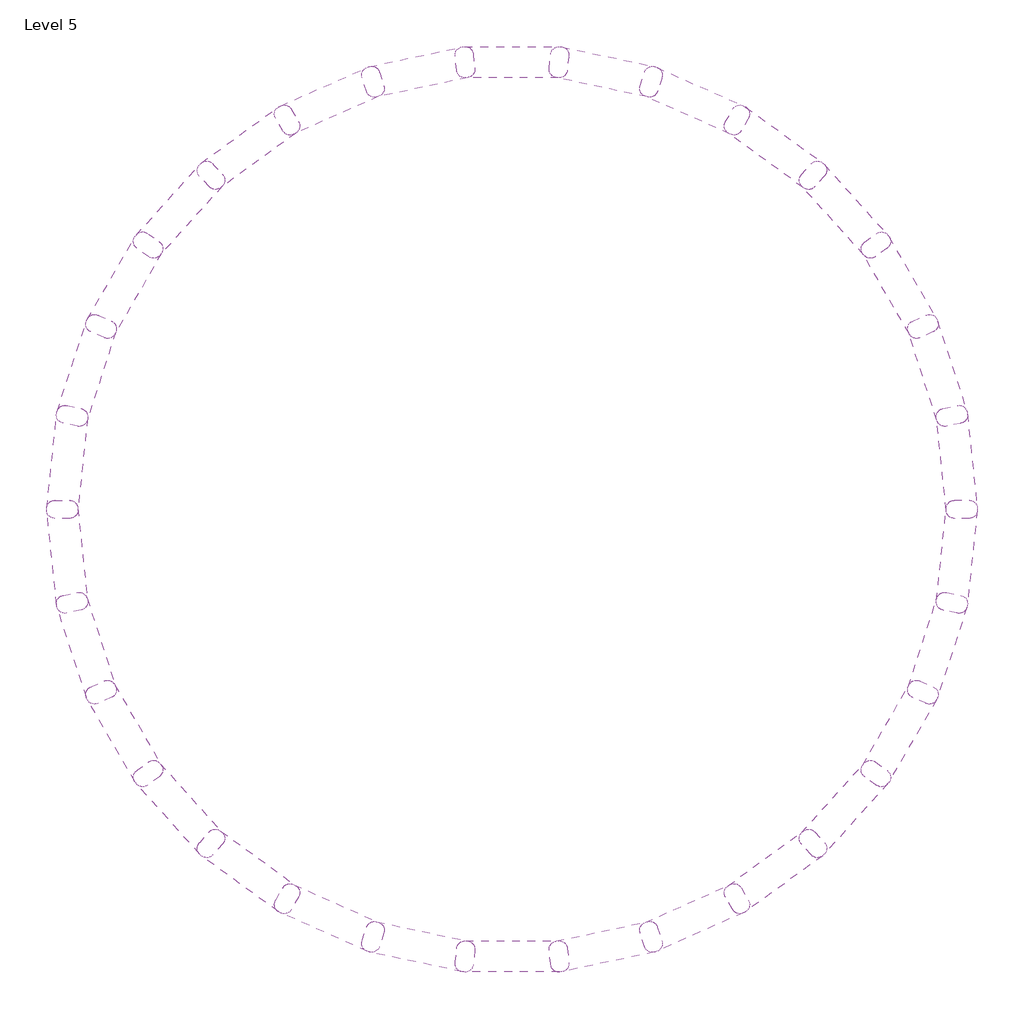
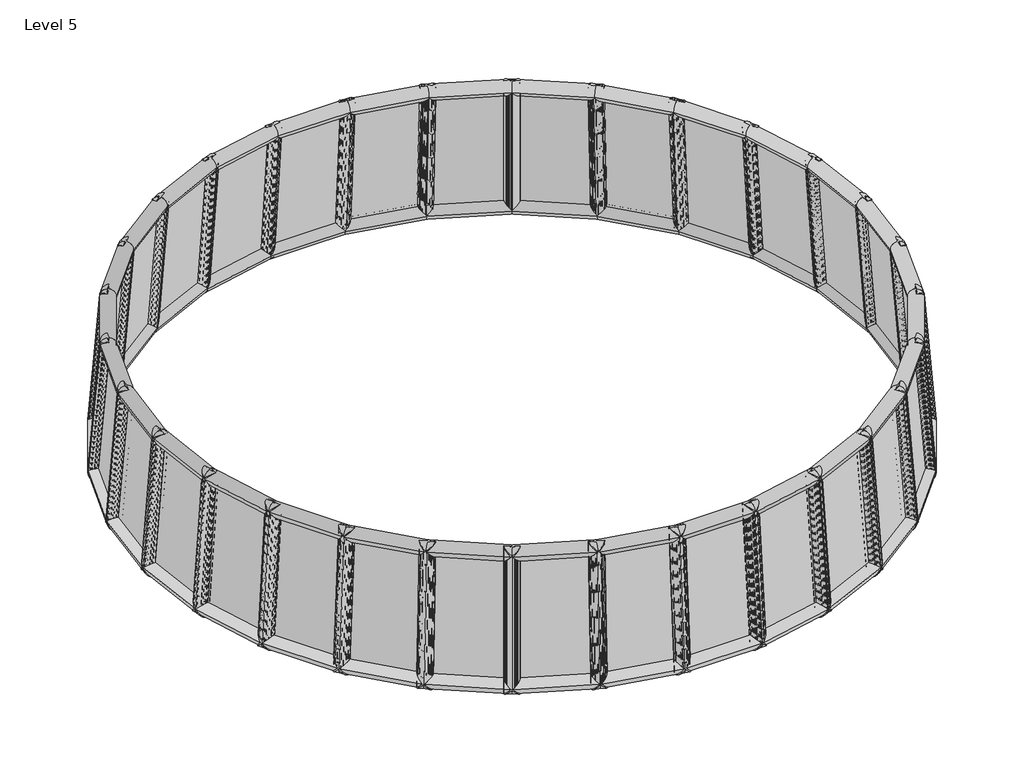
# One storey: 30 plates.
"""IFC4 building model written with IfcOpenShell, lengths in millimetres."""

import ifcopenshell
import ifcopenshell.guid

model = None  # the IFC model being written
_history = None  # IfcOwnerHistory: only IFC2X3 demands one
_inside = {}  # id of a spatial element -> (the spatial element, [elements in it])
_under = {}  # id of a project, library or spatial element -> (it, [spatial elements below it])
_declared = {}  # id of a project -> (the project, [libraries it declares])
_typed = {}  # id of a type object -> (the type object, [elements of that type])
_made_of = {}  # id of a material, layer set ... -> (it, [elements and type objects made of it])


def new_model(schema):
    """Start an empty IFC model of exactly this schema.

    Asked for "IFC4X3", IfcOpenShell would pick the latest addendum, in which some entities
    have other attributes; the version numbers below select the first issue.
    IFC2X3 requires an IfcOwnerHistory on every rooted entity: one is made here for all.
    """
    global model, _history
    if schema == "IFC4X3":
        model = ifcopenshell.file(schema_version=(4, 3, 0, 0))
    else:
        model = ifcopenshell.file(schema=schema)
    _inside.clear()
    _under.clear()
    _declared.clear()
    _typed.clear()
    _made_of.clear()
    _history = None
    if model.schema == "IFC2X3":
        org = make("IfcOrganization", Name="unknown")
        user = make(
            "IfcPersonAndOrganization",
            ThePerson=make("IfcPerson", FamilyName="unknown"),
            TheOrganization=org,
        )
        app = make(
            "IfcApplication",
            ApplicationDeveloper=org,
            Version="unknown",
            ApplicationFullName="unknown",
            ApplicationIdentifier="unknown",
        )
        _history = make(
            "IfcOwnerHistory",
            OwningUser=user,
            OwningApplication=app,
            ChangeAction="ADDED",
            CreationDate=0,
        )
    return model


def make(cls, **values):
    """One entity of the class cls with the attributes given. An attribute that is None is left unset."""
    return model.create_entity(
        cls, **{name: value for name, value in values.items() if value is not None}
    )


def rooted(cls, **values):
    """An entity with a GlobalId (a new one), such as an element, a storey or a relation."""
    return make(cls, GlobalId=ifcopenshell.guid.new(), OwnerHistory=_history, **values)


def si_unit(unit_type, name, prefix=None):
    """IfcSIUnit, for example si_unit("LENGTHUNIT", "METRE", prefix="MILLI")."""
    return make("IfcSIUnit", UnitType=unit_type, Prefix=prefix, Name=name)


def assignment(units):
    """IfcUnitAssignment: the units of a project."""
    return None if units is None else make("IfcUnitAssignment", Units=units)


def point(xyz):
    """IfcCartesianPoint."""
    return None if xyz is None else make("IfcCartesianPoint", Coordinates=xyz)


def direction(xyz):
    """IfcDirection."""
    return None if xyz is None else make("IfcDirection", DirectionRatios=xyz)


def frame(location, z_axis=None, x_axis=None):
    """IfcAxis2Placement3D, a coordinate frame: its origin and axes. An axis left out is left unset."""
    return make(
        "IfcAxis2Placement3D",
        Location=point(location),
        Axis=direction(z_axis),
        RefDirection=direction(x_axis),
    )


def origin():
    """The frame at (0, 0, 0) with its axes left unset."""
    return frame((0.0, 0.0, 0.0))


def origin_with_axes():
    """The frame at (0, 0, 0) with the z axis (0, 0, 1) and the x axis (1, 0, 0) written out."""
    return frame((0.0, 0.0, 0.0), z_axis=(0.0, 0.0, 1.0), x_axis=(1.0, 0.0, 0.0))


def place(relative_to, where):
    """IfcLocalPlacement: puts the frame where relative to a parent placement (None: the world)."""
    return make(
        "IfcLocalPlacement", PlacementRelTo=relative_to, RelativePlacement=where
    )


def context(
    kind, dimensions, precision=None, world=None, true_north=None, identifier=None
):
    """IfcGeometricRepresentationContext, for example the 3D "Model" context."""
    return make(
        "IfcGeometricRepresentationContext",
        ContextIdentifier=identifier,
        ContextType=kind,
        CoordinateSpaceDimension=dimensions,
        Precision=precision,
        WorldCoordinateSystem=world,
        TrueNorth=true_north,
    )


def project(units=None, contexts=None):
    """IfcProject with its units and contexts."""
    return rooted(
        "IfcProject",
        Name="project",
        RepresentationContexts=contexts,
        UnitsInContext=assignment(units),
    )


def spatial(cls, under=None, at=None, **own):
    """A site, building, storey or space (cls), placed at a placement, below another one or the project."""
    s = rooted(cls, ObjectPlacement=at, **own)
    if under is not None:
        _under.setdefault(under.id(), (under, []))[1].append(s)
    return s


def polyline(points):
    """IfcPolyline through the points."""
    return make("IfcPolyline", Points=[point(p) for p in points])


def ellipse_curve(where, semi_axis1, semi_axis2):
    """IfcEllipse in the frame where."""
    return make(
        "IfcEllipse", Position=where, SemiAxis1=semi_axis1, SemiAxis2=semi_axis2
    )


def outline(outer, holes=None, kind="AREA"):
    """IfcArbitraryClosedProfileDef: a profile drawn as a closed curve; with holes, ...WithVoids."""
    if holes is None:
        return make("IfcArbitraryClosedProfileDef", ProfileType=kind, OuterCurve=outer)
    return make(
        "IfcArbitraryProfileDefWithVoids",
        ProfileType=kind,
        OuterCurve=outer,
        InnerCurves=holes,
    )


def extrude(swept, where, along, depth):
    """IfcExtrudedAreaSolid: the profile swept, set in the frame where, extruded along a direction by depth."""
    return make(
        "IfcExtrudedAreaSolid",
        SweptArea=swept,
        Position=where,
        ExtrudedDirection=direction(along),
        Depth=depth,
    )


def shape(context_of_items, identifier, shape_type, items):
    """IfcShapeRepresentation: the items that make up one representation, for example the "Body"."""
    return make(
        "IfcShapeRepresentation",
        ContextOfItems=context_of_items,
        RepresentationIdentifier=identifier,
        RepresentationType=shape_type,
        Items=items,
    )


def source(mapping_origin, context_of_items, identifier, shape_type, items):
    """IfcRepresentationMap: a shape defined once, which mapped items show again and again."""
    return make(
        "IfcRepresentationMap",
        MappingOrigin=mapping_origin,
        MappedRepresentation=shape(context_of_items, identifier, shape_type, items),
    )


def transform(
    local_origin,
    x_axis=None,
    y_axis=None,
    z_axis=None,
    scale=None,
    scale2=None,
    scale3=None,
    uniform=True,
):
    """IfcCartesianTransformationOperator3D, or its non-uniform kind. x_axis, y_axis, z_axis: its Axis1, 2, 3."""
    if uniform:
        return make(
            "IfcCartesianTransformationOperator3D",
            Axis1=direction(x_axis),
            Axis2=direction(y_axis),
            LocalOrigin=point(local_origin),
            Scale=scale,
            Axis3=direction(z_axis),
        )
    return make(
        "IfcCartesianTransformationOperator3DnonUniform",
        Axis1=direction(x_axis),
        Axis2=direction(y_axis),
        LocalOrigin=point(local_origin),
        Scale=scale,
        Axis3=direction(z_axis),
        Scale2=scale2,
        Scale3=scale3,
    )


def mapped(mapping_source, mapping_target):
    """IfcMappedItem: shows the shape of a source again, moved by a transform."""
    return make(
        "IfcMappedItem", MappingSource=mapping_source, MappingTarget=mapping_target
    )


def made_of(thing, what):
    """Note that an element or type object is made of a material, layer set ...; save() writes the relation."""
    if what is not None:
        _made_of.setdefault(what.id(), (what, []))[1].append(thing)
    return thing


def element(
    cls,
    number,
    at=None,
    inside=None,
    cuts=None,
    type_object=None,
    material=None,
    context=None,
    identifier="Body",
    shape_type=None,
    held_by="IfcProductDefinitionShape",
    body=None,
    shapes=None,
    **own,
):
    """One element of the class cls, such as IfcWall. Its Tag is "e" and its number.

    at: its placement. inside: the storey or other place that contains it. cuts: it is an
    opening in that element (IfcRelVoidsElement). A single representation is given by context,
    identifier, shape_type and body (its items); several are given by shapes. held_by: the class
    of the entity that holds the representations. save() writes the other relations.
    """
    e = rooted(cls, Tag="e%d" % number, ObjectPlacement=at, **own)
    if body is not None:
        shapes = [shape(context, identifier, shape_type, body)]
    if shapes is not None:
        e.Representation = make(held_by, Representations=shapes)
    if inside is not None:
        _inside.setdefault(inside.id(), (inside, []))[1].append(e)
    if cuts is not None:
        rooted(
            "IfcRelVoidsElement", RelatingBuildingElement=cuts, RelatedOpeningElement=e
        )
    if type_object is not None:
        _typed.setdefault(type_object.id(), (type_object, []))[1].append(e)
    return made_of(e, material)


def aggregate(whole, parts):
    """IfcRelAggregates: a whole, such as a stair, and the parts it consists of."""
    return rooted("IfcRelAggregates", RelatingObject=whole, RelatedObjects=parts)


def save(model, path):
    """Write the relations noted so far, then the file.

    IfcRelAggregates (storeys below a building ...), IfcRelContainedInSpatialStructure (elements
    in a storey), IfcRelDefinesByType, IfcRelAssociatesMaterial and IfcRelDeclares: one each for
    every whole, place, type object, material and project.
    """
    for whole, parts in _under.values():
        aggregate(whole, parts)
    for where, things in _inside.values():
        rooted(
            "IfcRelContainedInSpatialStructure",
            RelatedElements=things,
            RelatingStructure=where,
        )
    for kind, things in _typed.values():
        rooted("IfcRelDefinesByType", RelatedObjects=things, RelatingType=kind)
    for what, things in _made_of.values():
        rooted("IfcRelAssociatesMaterial", RelatedObjects=things, RelatingMaterial=what)
    for by, libraries in _declared.values():
        rooted("IfcRelDeclares", RelatingContext=by, RelatedDefinitions=libraries)
    model.write(path)


def cylinder_surface(at, radius):
    """IfcCylindricalSurface: all points at the distance radius from the z axis of the frame at."""
    return make("IfcCylindricalSurface", Position=at, Radius=radius)


def advanced_brep(points, edges, surfaces, faces):
    """IfcAdvancedBrep: a solid bounded by faces that lie on surfaces and meet in shared edges.

    An edge is (start, end): straight between two places in points (the first is 0);
    or (start, end, curve); or (start, end, curve, False) where it runs against its curve.
    A face is (place in surfaces, loops), or (place, loops, False) where it looks against
    its surface's normal. A loop lists edges by number (the first is 1), with a minus sign
    where the edge is run from its end to its start. The first loop is the outer one.
    """
    corners = [point(p) for p in points]
    vertices = [make("IfcVertexPoint", VertexGeometry=c) for c in corners]
    made = []
    for start, end, *more in edges:
        made.append(
            make(
                "IfcEdgeCurve",
                EdgeStart=vertices[start],
                EdgeEnd=vertices[end],
                EdgeGeometry=more[0] if more else make("IfcPolyline", Points=[corners[start], corners[end]]),
                SameSense=more[1] if len(more) > 1 else True,
            )
        )
    hull = []
    for where, loops, *sense in faces:
        bounds = []
        for j, loop in enumerate(loops):
            ring = [make("IfcOrientedEdge", EdgeElement=made[abs(k) - 1], Orientation=k > 0) for k in loop]
            bounds.append(
                make(
                    "IfcFaceOuterBound" if j == 0 else "IfcFaceBound",
                    Bound=make("IfcEdgeLoop", EdgeList=ring),
                    Orientation=True,
                )
            )
        hull.append(make("IfcAdvancedFace", Bounds=bounds, FaceSurface=surfaces[where], SameSense=sense[0] if sense else True))
    return make("IfcAdvancedBrep", Outer=make("IfcClosedShell", CfsFaces=hull))


def curtainpanel_curtainpanel_019cb1ba(model_context):
    return source(origin(), model_context, "Body", "SolidModel", [
        extrude(outline(polyline([(2932.5122481, 2932.5122481), (4022.6889817, 6841.3131751), (6243.4218136, 6202.2987464), (5089.3769566, 2311.8758304), (2932.5122481, 2932.5122481)])), origin_with_axes(), (0.0, 0.0, 1.0), 20.0),
        advanced_brep(
        [(2932.5122481, 2932.5122481, -220.0), (2932.5122481, 2932.5122481, 220.0), (5089.3769566, 2311.8758304, 220.0), (5089.3769566, 2311.8758304, -220.0), (6243.4218136, 6202.2987464, 220.0), (6243.4218136, 6202.2987464, -220.0), (4022.6889817, 6841.3131751, 220.0), (4022.6889817, 6841.3131751, -220.0)],
        [
            (0, 1, ellipse_curve(frame((2932.5122481, 2932.5122481, 0.0), z_axis=(0.4875770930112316, -0.8730799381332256, 0.0), x_axis=(-0.8730799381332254, -0.4875770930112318, 0.0)), 309.860882, 220.0)),
            (1, 2),
            (2, 3, ellipse_curve(frame((5089.3769566, 2311.8758304, 0.0), z_axis=(-0.8770433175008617, -0.4804113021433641, 0.0), x_axis=(-0.4804113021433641, 0.8770433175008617, 0.0)), 309.860882, 220.0)),
            (3, 0),
            (1, 0, ellipse_curve(frame((2932.5122481, 2932.5122481, 0.0), z_axis=(0.4875770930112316, -0.8730799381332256, 0.0), x_axis=(-0.8730799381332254, -0.4875770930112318, 0.0)), 309.860882, 220.0)),
            (3, 2, ellipse_curve(frame((5089.3769566, 2311.8758304, 0.0), z_axis=(-0.8770433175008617, -0.4804113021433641, 0.0), x_axis=(-0.4804113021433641, 0.8770433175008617, 0.0)), 309.860882, 220.0)),
            (2, 4),
            (4, 5, ellipse_curve(frame((6243.4218136, 6202.2987464, 0.0), z_axis=(0.4804113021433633, -0.8770433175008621, 0.0), x_axis=(-0.8770433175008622, -0.48041130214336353, 0.0)), 312.4087334, 220.0)),
            (5, 3),
            (5, 4, ellipse_curve(frame((6243.4218136, 6202.2987464, 0.0), z_axis=(0.4804113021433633, -0.8770433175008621, 0.0), x_axis=(-0.8770433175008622, -0.48041130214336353, 0.0)), 312.4087334, 220.0)),
            (4, 6),
            (6, 7, ellipse_curve(frame((4022.6889817, 6841.3131751, 0.0), z_axis=(0.8730799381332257, 0.4875770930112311, 0.0), x_axis=(0.4875770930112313, -0.8730799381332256, 0.0)), 312.4087334, 220.0)),
            (7, 5),
            (7, 6, ellipse_curve(frame((4022.6889817, 6841.3131751, 0.0), z_axis=(0.8730799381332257, 0.4875770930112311, 0.0), x_axis=(0.4875770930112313, -0.8730799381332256, 0.0)), 312.4087334, 220.0)),
            (6, 1),
            (0, 7),
        ],
        [
            cylinder_surface(frame((2932.5122481, 2932.5122481, 0.0), z_axis=(-0.9610056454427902, 0.27652874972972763, 0.0), x_axis=(0.27652874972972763, 0.9610056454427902, 0.0)), 220.0),
            cylinder_surface(frame((5089.3769566, 2311.8758304, 0.0), z_axis=(-0.2843889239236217, -0.9587089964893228, 0.0), x_axis=(-0.9587089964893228, 0.2843889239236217, 0.0)), 220.0),
            cylinder_surface(frame((6243.4218136, 6202.2987464, 0.0), z_axis=(0.9610056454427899, -0.27652874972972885, 0.0), x_axis=(-0.27652874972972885, -0.9610056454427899, 0.0)), 220.0),
            cylinder_surface(frame((4022.6889817, 6841.3131751, 0.0), z_axis=(0.26865003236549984, 0.9632378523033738, 0.0), x_axis=(0.9632378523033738, -0.26865003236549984, 0.0)), 220.0),
        ],
        [
            (0, [[1, 2, 3, 4]]),
            (0, [[5, -4, 6, -2]]),
            (1, [[-3, 7, 8, 9]]),
            (1, [[-6, -9, 10, -7]]),
            (2, [[-8, 11, 12, 13]]),
            (2, [[-10, -13, 14, -11]]),
            (3, [[-12, 15, -1, 16]]),
            (3, [[-14, -16, -5, -15]]),
        ],
    ),
    ])


model = new_model("IFC4")

# Units and contexts
model_context = context("Model", 3, world=origin())
ifc_project = project(units=[si_unit("LENGTHUNIT", "METRE", prefix="MILLI")], contexts=[model_context])

# Site, building, storey
site = spatial("IfcSite", under=ifc_project)
building = spatial("IfcBuilding", under=site)
storey = spatial("IfcBuildingStorey", under=building, Name="Level 5", Elevation=16000.0)

# Plates
placement = place(None, origin())
curtainpanel_curtainpanel_shape = curtainpanel_curtainpanel_019cb1ba(model_context)
element("IfcPlate", 1, ObjectType="CurtainPanel : CurtainPanel", at=placement, inside=storey, context=model_context, shape_type="MappedRepresentation", body=[
    mapped(curtainpanel_curtainpanel_shape, transform((10353.2537077, -2307.4459372, 27534.2003187), x_axis=(-0.0790251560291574, 0.957993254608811, -0.27568813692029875), y_axis=(0.10337023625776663, -0.26718729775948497, -0.9580843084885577), z_axis=(-0.991498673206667, -0.10421070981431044, -0.07791347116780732))),
])
element("IfcPlate", 2, ObjectType="CurtainPanel : CurtainPanel", at=placement, inside=storey, context=model_context, shape_type="MappedRepresentation", body=[
    mapped(curtainpanel_curtainpanel_shape, transform((10541.3987612, -45.9326872, 27534.2003187), x_axis=(-0.2764762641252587, 0.9206285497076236, -0.27568813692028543), y_axis=(0.1566627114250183, -0.23985673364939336, -0.9580843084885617), z_axis=(-0.9481654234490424, -0.308077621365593, -0.07791347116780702))),
])
element("IfcPlate", 3, ObjectType="CurtainPanel : CurtainPanel", at=placement, inside=storey, context=model_context, shape_type="MappedRepresentation", body=[
    mapped(curtainpanel_curtainpanel_shape, transform((10255.2373502, 2205.2786285, 27534.2003187), x_axis=(-0.4618440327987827, 0.8430279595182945, -0.2756881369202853), y_axis=(0.20310827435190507, -0.20204327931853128, -0.9580843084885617), z_axis=(-0.863392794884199, -0.49848006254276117, -0.07791347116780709))),
])
element("IfcPlate", 4, ObjectType="CurtainPanel : CurtainPanel", at=placement, inside=storey, context=model_context, shape_type="MappedRepresentation", body=[
    mapped(curtainpanel_curtainpanel_shape, transform((9507.2761016, 4347.7992729, 27534.2003187), x_axis=(-0.6270270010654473, 0.7285830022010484, -0.2756881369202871), y_axis=(0.24067703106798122, -0.15539956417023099, -0.9580843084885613), z_axis=(-0.7408857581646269, -0.667096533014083, -0.07791347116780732))),
])
element("IfcPlate", 5, ObjectType="CurtainPanel : CurtainPanel", at=placement, inside=storey, context=model_context, shape_type="MappedRepresentation", body=[
    mapped(curtainpanel_curtainpanel_shape, transform((8330.2045111, 6287.9908129, 27534.2003187), x_axis=(-0.7648058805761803, 0.5822954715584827, -0.2756881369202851), y_axis=(0.26772704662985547, -0.10196414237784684, -0.9580843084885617), z_axis=(-0.5859984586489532, -0.8065576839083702, -0.0779134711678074))),
])
element("IfcPlate", 6, ObjectType="CurtainPanel : CurtainPanel", at=placement, inside=storey, context=model_context, shape_type="MappedRepresentation", body=[
    mapped(curtainpanel_curtainpanel_shape, transform((6775.4662553, 7941.0575681, 27534.2003187), x_axis=(-0.8691590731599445, 0.41055883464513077, -0.2756881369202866), y_axis=(0.28307610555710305, -0.04407239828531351, -0.9580843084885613), z_axis=(-0.40550021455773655, -0.9107683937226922, -0.07791347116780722))),
])
element("IfcPlate", 7, ObjectType="CurtainPanel : CurtainPanel", at=placement, inside=storey, context=model_context, shape_type="MappedRepresentation", body=[
    mapped(curtainpanel_curtainpanel_shape, transform((4911.0108566, 9234.752589, 27534.2003187), x_axis=(-0.9355258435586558, 0.22087880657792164, -0.27568813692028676), y_axis=(0.2860533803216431, 0.015745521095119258, -0.9580843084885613), z_axis=(-0.2072796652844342, -0.9751741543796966, -0.0779134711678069))),
])
element("IfcPlate", 8, ObjectType="CurtainPanel : CurtainPanel", at=placement, inside=storey, context=model_context, shape_type="MappedRepresentation", body=[
    mapped(curtainpanel_curtainpanel_shape, transform((2818.3239624, 10112.5351953, 27534.2003187), x_axis=(-0.9610056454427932, 0.02154531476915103, -0.27568813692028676), y_axis=(0.2765287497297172, 0.07487528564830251, -0.9580843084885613), z_axis=(0.0, -0.9969601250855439, -0.077913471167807))),
])
element("IfcPlate", 9, ObjectType="CurtainPanel : CurtainPanel", at=placement, inside=storey, context=model_context, shape_type="MappedRepresentation", body=[
    mapped(curtainpanel_curtainpanel_shape, transform((588.8660319, 10536.0420752, 27534.2003187), x_axis=(-0.9444848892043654, -0.17872981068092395, -0.27568813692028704), y_axis=(0.2549184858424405, 0.13073264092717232, -0.9580843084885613), z_axis=(0.20727966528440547, -0.9751741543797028, -0.07791347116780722))),
])
element("IfcPlate", 10, ObjectType="CurtainPanel : CurtainPanel", at=placement, inside=storey, context=model_context, shape_type="MappedRepresentation", body=[
    mapped(curtainpanel_curtainpanel_shape, transform((-1679.9249252, 10486.7639457, 27534.2003187), x_axis=(-0.8866856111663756, -0.3711935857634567, -0.2756881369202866), y_axis=(0.22216706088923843, 0.18087635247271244, -0.9580843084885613), z_axis=(0.40550021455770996, -0.9107683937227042, -0.07791347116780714))),
])
element("IfcPlate", 11, ObjectType="CurtainPanel : CurtainPanel", at=placement, inside=storey, context=model_context, shape_type="MappedRepresentation", body=[
    mapped(curtainpanel_curtainpanel_shape, transform((-5941.4923095, 8999.0362685, 27534.2003187), x_axis=(-0.6590495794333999, -0.6997497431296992, -0.2756881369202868), y_axis=(0.1293906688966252, 0.25560225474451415, -0.9580843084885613), z_axis=(0.7408857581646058, -0.6670965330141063, -0.07791347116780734))),
])
element("IfcPlate", 12, ObjectType="CurtainPanel : CurtainPanel", at=placement, inside=storey, context=model_context, shape_type="MappedRepresentation", body=[
    mapped(curtainpanel_curtainpanel_shape, transform((-9229.5144745, 5906.5937946, 27534.2003187), x_axis=(-0.31745788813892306, -0.9073128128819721, -0.27568813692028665), y_axis=(0.014241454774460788, 0.28613220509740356, -0.9580843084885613), z_axis=(0.948165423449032, -0.3080776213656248, -0.07791347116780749))),
])
element("IfcPlate", 13, ObjectType="CurtainPanel : CurtainPanel", at=placement, inside=storey, context=model_context, shape_type="MappedRepresentation", body=[
    mapped(curtainpanel_curtainpanel_shape, transform((-3888.8918572, 9966.8544976, 27534.2003187), x_axis=(-0.7901339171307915, -0.5474344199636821, -0.2756881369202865), y_axis=(0.17970586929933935, 0.2231148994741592, -0.9580843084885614), z_axis=(0.585998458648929, -0.8065576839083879, -0.07791347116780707))),
])
element("IfcPlate", 14, ObjectType="CurtainPanel : CurtainPanel", at=placement, inside=storey, context=model_context, shape_type="MappedRepresentation", body=[
    mapped(curtainpanel_curtainpanel_shape, transform((-7748.0177927, 7625.6075591, 27534.2003187), x_axis=(-0.49916161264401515, -0.8214826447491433, -0.275688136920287), y_axis=(0.07342047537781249, 0.27691856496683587, -0.9580843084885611), z_axis=(0.8633927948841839, -0.4984800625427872, -0.0779134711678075))),
])
element("IfcPlate", 15, ObjectType="CurtainPanel : CurtainPanel", at=placement, inside=storey, context=model_context, shape_type="MappedRepresentation", body=[
    mapped(curtainpanel_curtainpanel_shape, transform((-10321.2338411, 3917.1241251, 27534.2003187), x_axis=(-0.12187973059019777, -0.9534890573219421, -0.27568813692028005), y_axis=(-0.045559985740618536, 0.28284049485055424, -0.9580843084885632), z_axis=(0.9914986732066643, -0.10421070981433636, -0.07791347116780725))),
])
element("IfcPlate", 16, ObjectType="CurtainPanel : CurtainPanel", at=placement, inside=storey, context=model_context, shape_type="MappedRepresentation", body=[
    mapped(curtainpanel_curtainpanel_shape, transform((-10975.4625174, 1744.1479218, 27534.2003187), x_axis=(0.07902515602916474, -0.9579932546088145, -0.2756881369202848), y_axis=(-0.10337023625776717, 0.26718729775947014, -0.958084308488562), z_axis=(0.9914986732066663, 0.10421070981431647, -0.0779134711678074))),
])
element("IfcPlate", 17, ObjectType="CurtainPanel : CurtainPanel", at=placement, inside=storey, context=model_context, shape_type="MappedRepresentation", body=[
    mapped(curtainpanel_curtainpanel_shape, transform((-11163.6075708, -517.3653282, 27534.2003187), x_axis=(0.2764762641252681, -0.920628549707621, -0.2756881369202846), y_axis=(-0.15666271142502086, 0.23985673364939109, -0.958084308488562), z_axis=(0.9481654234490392, 0.3080776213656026, -0.07791347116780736))),
])
element("IfcPlate", 18, ObjectType="CurtainPanel : CurtainPanel", at=placement, inside=storey, context=model_context, shape_type="MappedRepresentation", body=[
    mapped(curtainpanel_curtainpanel_shape, transform((-10877.4461599, -2768.5766439, 27534.2003187), x_axis=(0.46184403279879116, -0.8430279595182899, -0.2756881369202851), y_axis=(-0.20310827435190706, 0.2020432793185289, -0.958084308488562), z_axis=(0.863392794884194, 0.4984800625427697, -0.07791347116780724))),
])
element("IfcPlate", 19, ObjectType="CurtainPanel : CurtainPanel", at=placement, inside=storey, context=model_context, shape_type="MappedRepresentation", body=[
    mapped(curtainpanel_curtainpanel_shape, transform((-10129.4849113, -4911.0972883, 27534.2003187), x_axis=(0.6270270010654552, -0.7285830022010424, -0.27568813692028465), y_axis=(-0.24067703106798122, 0.1553995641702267, -0.958084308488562), z_axis=(0.7408857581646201, 0.6670965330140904, -0.0779134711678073))),
])
element("IfcPlate", 20, ObjectType="CurtainPanel : CurtainPanel", at=placement, inside=storey, context=model_context, shape_type="MappedRepresentation", body=[
    mapped(curtainpanel_curtainpanel_shape, transform((-8952.4133207, -6851.2888283, 27534.2003187), x_axis=(0.7648058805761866, -0.5822954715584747, -0.2756881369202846), y_axis=(-0.267727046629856, 0.10196414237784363, -0.958084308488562), z_axis=(0.5859984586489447, 0.8065576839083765, -0.07791347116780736))),
])
element("IfcPlate", 21, ObjectType="CurtainPanel : CurtainPanel", at=placement, inside=storey, context=model_context, shape_type="MappedRepresentation", body=[
    mapped(curtainpanel_curtainpanel_shape, transform((-7397.6750649, -8504.3555835, 27534.2003187), x_axis=(0.8691590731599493, -0.4105588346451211, -0.2756881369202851), y_axis=(-0.28307610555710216, 0.04407239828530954, -0.9580843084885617), z_axis=(0.40550021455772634, 0.9107683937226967, -0.07791347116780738))),
])
element("IfcPlate", 22, ObjectType="CurtainPanel : CurtainPanel", at=placement, inside=storey, context=model_context, shape_type="MappedRepresentation", body=[
    mapped(curtainpanel_curtainpanel_shape, transform((-5533.2196662, -9798.0506044, 27534.2003187), x_axis=(0.935525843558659, -0.2208788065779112, -0.27568813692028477), y_axis=(-0.28605338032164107, -0.015745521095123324, -0.958084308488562), z_axis=(0.20727966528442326, 0.9751741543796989, -0.07791347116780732))),
])
element("IfcPlate", 23, ObjectType="CurtainPanel : CurtainPanel", at=placement, inside=storey, context=model_context, shape_type="MappedRepresentation", body=[
    mapped(curtainpanel_curtainpanel_shape, transform((-3440.532772, -10675.8332108, 27534.2003187), x_axis=(0.9610056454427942, -0.02154531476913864, -0.2756881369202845), y_axis=(-0.2765287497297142, -0.07487528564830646, -0.9580843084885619), z_axis=(0.0, 0.996960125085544, -0.07791347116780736))),
])
element("IfcPlate", 24, ObjectType="CurtainPanel : CurtainPanel", at=placement, inside=storey, context=model_context, shape_type="MappedRepresentation", body=[
    mapped(curtainpanel_curtainpanel_shape, transform((-1211.0748415, -11099.3400906, 27534.2003187), x_axis=(0.9444848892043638, 0.17872981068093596, -0.2756881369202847), y_axis=(-0.25491848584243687, -0.13073264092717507, -0.9580843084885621), z_axis=(-0.2072796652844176, 0.9751741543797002, -0.07791347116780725))),
])
element("IfcPlate", 25, ObjectType="CurtainPanel : CurtainPanel", at=placement, inside=storey, context=model_context, shape_type="MappedRepresentation", body=[
    mapped(curtainpanel_curtainpanel_shape, transform((1057.7161156, -11050.0619611, 27534.2003187), x_axis=(0.8866856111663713, 0.37119358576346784, -0.2756881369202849), y_axis=(-0.22216706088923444, -0.1808763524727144, -0.958084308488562), z_axis=(-0.40550021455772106, 0.9107683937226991, -0.07791347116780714))),
])
element("IfcPlate", 26, ObjectType="CurtainPanel : CurtainPanel", at=placement, inside=storey, context=model_context, shape_type="MappedRepresentation", body=[
    mapped(curtainpanel_curtainpanel_shape, transform((5319.2834998, -9562.3342839, 27534.2003187), x_axis=(0.6590495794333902, 0.6997497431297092, -0.2756881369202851), y_axis=(-0.12939066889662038, -0.2556022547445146, -0.9580843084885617), z_axis=(-0.7408857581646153, 0.6670965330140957, -0.07791347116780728))),
])
element("IfcPlate", 27, ObjectType="CurtainPanel : CurtainPanel", at=placement, inside=storey, context=model_context, shape_type="MappedRepresentation", body=[
    mapped(curtainpanel_curtainpanel_shape, transform((8607.3056649, -6469.89181, 27534.2003187), x_axis=(0.3174578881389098, 0.9073128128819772, -0.2756881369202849), y_axis=(-0.014241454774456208, -0.2861322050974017, -0.958084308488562), z_axis=(-0.9481654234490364, 0.3080776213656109, -0.0779134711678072))),
])
element("IfcPlate", 28, ObjectType="CurtainPanel : CurtainPanel", at=placement, inside=storey, context=model_context, shape_type="MappedRepresentation", body=[
    mapped(curtainpanel_curtainpanel_shape, transform((3266.6830476, -10530.152513, 27534.2003187), x_axis=(0.7901339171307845, 0.5474344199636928, -0.27568813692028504), y_axis=(-0.17970586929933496, -0.22311489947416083, -0.9580843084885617), z_axis=(-0.5859984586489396, 0.8065576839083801, -0.0779134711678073))),
])
element("IfcPlate", 29, ObjectType="CurtainPanel : CurtainPanel", at=placement, inside=storey, context=model_context, shape_type="MappedRepresentation", body=[
    mapped(curtainpanel_curtainpanel_shape, transform((7125.808983, -8188.9055746, 27534.2003187), x_axis=(0.4991616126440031, 0.8214826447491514, -0.2756881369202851), y_axis=(-0.07342047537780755, -0.27691856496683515, -0.9580843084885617), z_axis=(-0.8633927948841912, 0.4984800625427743, -0.07791347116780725))),
])
element("IfcPlate", 30, ObjectType="CurtainPanel : CurtainPanel", at=placement, inside=storey, context=model_context, shape_type="MappedRepresentation", body=[
    mapped(curtainpanel_curtainpanel_shape, transform((9699.0250315, -4480.4221405, 27534.2003187), x_axis=(0.12187973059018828, 0.9534890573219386, -0.2756881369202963), y_axis=(0.04555998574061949, -0.28284049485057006, -0.9580843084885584), z_axis=(-0.9914986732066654, 0.1042107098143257, -0.07791347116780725))),
])

save(model, "model.ifc")
